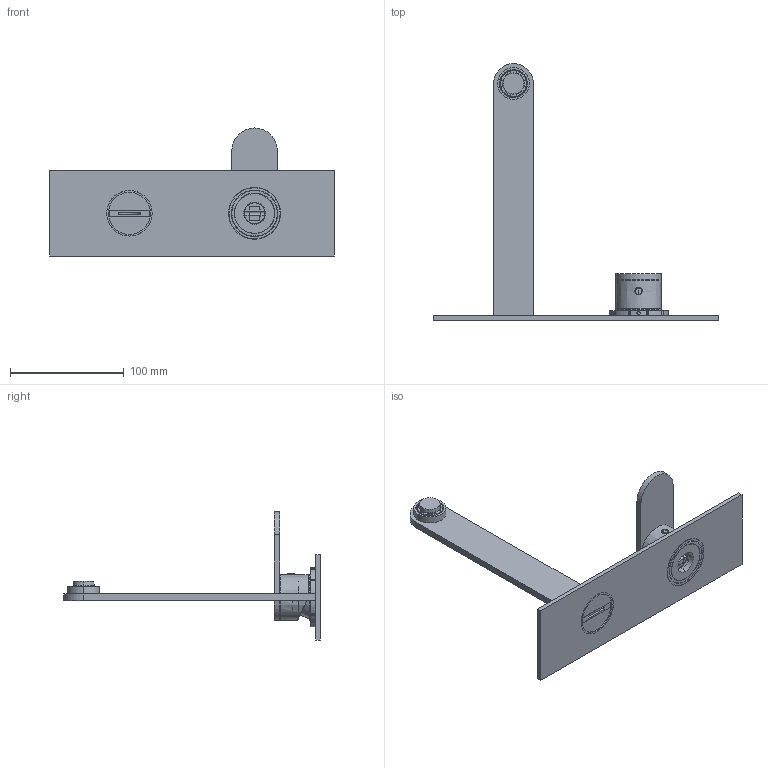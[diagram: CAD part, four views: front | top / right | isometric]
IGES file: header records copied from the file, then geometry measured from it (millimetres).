
Start section:  PTC IGES file: 79548.igs
Global section: file name: 79548.igs; native system: Creo Parametric by PTC Inc.; preprocessor: 2025443; author: carloff; organization: Unknown; date: 20261005.141454; units: millimetre
Bounding box: 250 x 225.5 x 112.5 mm (x, y, z)
Surface area: 95939.2 mm2 (no closed solid volume)
Topology: 0 solids, 0 shells, 584 faces, 3228 edges, 3220 vertices
Faces by surface type: revolution 312, bspline 272
